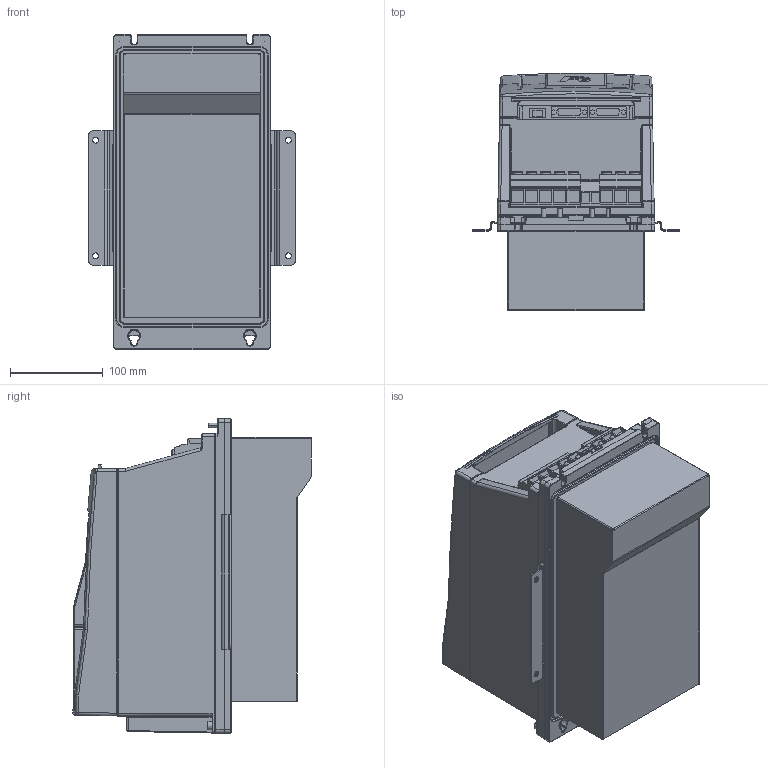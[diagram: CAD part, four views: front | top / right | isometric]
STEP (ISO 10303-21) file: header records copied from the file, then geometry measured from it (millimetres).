
FILE_DESCRIPTION (( 'STEP AP214' ), '1' );
FILE_NAME ('Housing F6-3 TR5-A010.STEP', '2020-11-10T13:51:52', ( '' ), ( '' ), 'SwSTEP 2.0', 'SolidWorks 2019', '' );
FILE_SCHEMA (( 'AUTOMOTIVE_DESIGN' ));
Length unit declared in the file: millimetre
Products named in the file (9): 10040482_000_Kundenmodell; 10059761_000; 10059765_000; 10051470_000_Leistungsteil TR5 (Kundenmodell); 10059764_000_Blindabdeckung (Kundenmodell); 10060393_000; Housing F6-3 TR5-A010; 10060358_000; 10044643_000_Kundenmodell
Assembly tree (8 placements, depth 4):
  Housing F6-3 TR5-A010
    10051470_000_Leistungsteil TR5 (Kundenmodell)
      10060358_000
    10040482_000_Kundenmodell
      10060393_000
    10044643_000_Kundenmodell
      10059764_000_Blindabdeckung (Kundenmodell)
        10059765_000
      10059761_000
Bounding box: 223 x 257.2 x 340 mm (x, y, z)
Volume: 10542781.1 mm3; surface area: 631247.9 mm2
Topology: 11 solids, 15 shells, 2005 faces, 5025 edges, 3072 vertices
Faces by surface type: plane 852, cylinder 603, bspline 315, torus 108, cone 77, sphere 50
Entity records: 66789 total; most frequent: CARTESIAN_POINT 21391, ORIENTED_EDGE 9922, DIRECTION 8736, EDGE_CURVE 4961, VERTEX_POINT 3072, AXIS2_PLACEMENT_3D 3022, LINE 2692, VECTOR 2692
